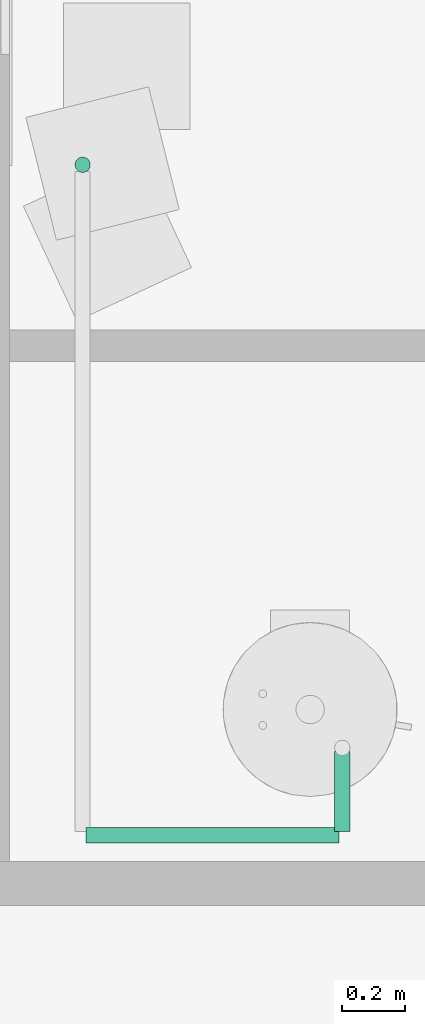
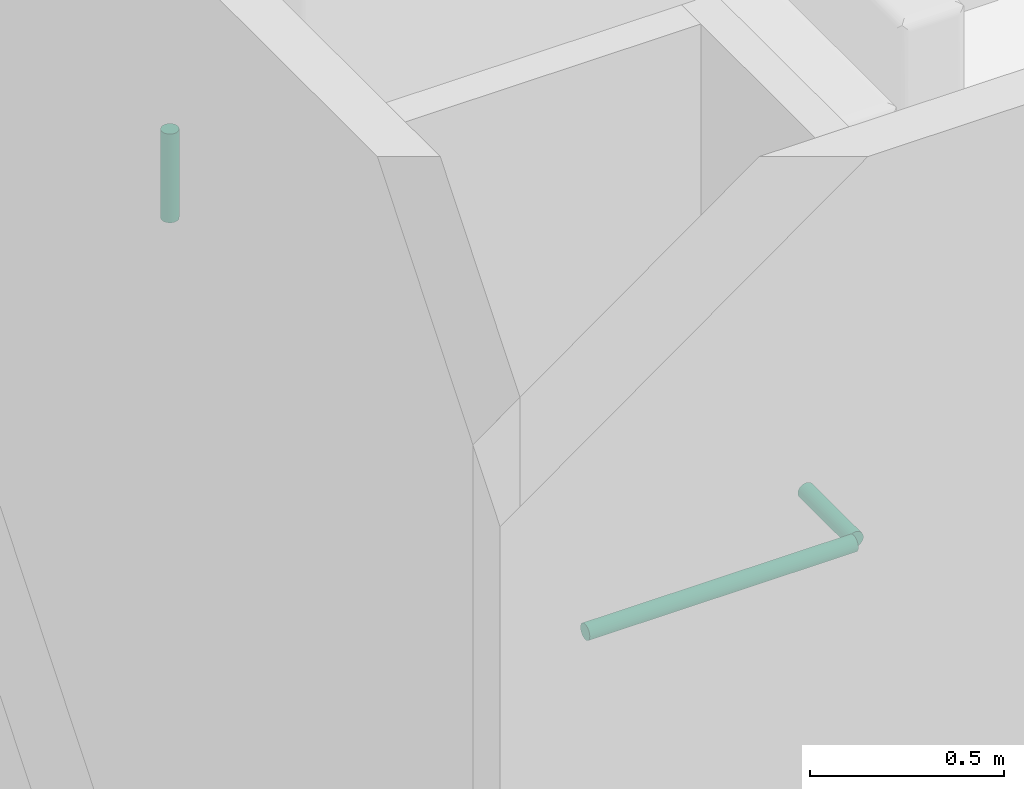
# One storey, part 50 of 72: 3 pipe segments.
"""IFC4 building model written with IfcOpenShell, lengths in centimetres."""

import ifcopenshell
import ifcopenshell.guid

model = None  # the IFC model being written
_history = None  # IfcOwnerHistory: only IFC2X3 demands one
_inside = {}  # id of a spatial element -> (the spatial element, [elements in it])
_under = {}  # id of a project, library or spatial element -> (it, [spatial elements below it])
_declared = {}  # id of a project -> (the project, [libraries it declares])
_typed = {}  # id of a type object -> (the type object, [elements of that type])
_made_of = {}  # id of a material, layer set ... -> (it, [elements and type objects made of it])


def new_model(schema):
    """Start an empty IFC model of exactly this schema.

    Asked for "IFC4X3", IfcOpenShell would pick the latest addendum, in which some entities
    have other attributes; the version numbers below select the first issue.
    IFC2X3 requires an IfcOwnerHistory on every rooted entity: one is made here for all.
    """
    global model, _history
    if schema == "IFC4X3":
        model = ifcopenshell.file(schema_version=(4, 3, 0, 0))
    else:
        model = ifcopenshell.file(schema=schema)
    _inside.clear()
    _under.clear()
    _declared.clear()
    _typed.clear()
    _made_of.clear()
    _history = None
    if model.schema == "IFC2X3":
        org = make("IfcOrganization", Name="unknown")
        user = make(
            "IfcPersonAndOrganization",
            ThePerson=make("IfcPerson", FamilyName="unknown"),
            TheOrganization=org,
        )
        app = make(
            "IfcApplication",
            ApplicationDeveloper=org,
            Version="unknown",
            ApplicationFullName="unknown",
            ApplicationIdentifier="unknown",
        )
        _history = make(
            "IfcOwnerHistory",
            OwningUser=user,
            OwningApplication=app,
            ChangeAction="ADDED",
            CreationDate=0,
        )
    return model


def make(cls, **values):
    """One entity of the class cls with the attributes given. An attribute that is None is left unset."""
    return model.create_entity(
        cls, **{name: value for name, value in values.items() if value is not None}
    )


def entity(cls, *values):
    """Any entity or typed value of the class cls, its attributes in the order of the schema. None: left unset."""
    e = model.create_entity(cls)
    for i, value in enumerate(values):
        if value is not None:
            e[i] = value
    return e


def rooted(cls, **values):
    """An entity with a GlobalId (a new one), such as an element, a storey or a relation."""
    return make(cls, GlobalId=ifcopenshell.guid.new(), OwnerHistory=_history, **values)


def si_unit(unit_type, name, prefix=None):
    """IfcSIUnit, for example si_unit("LENGTHUNIT", "METRE", prefix="MILLI")."""
    return make("IfcSIUnit", UnitType=unit_type, Prefix=prefix, Name=name)


def converted_unit(unit_type, name, factor, base, dimensions=None, offset=None):
    """IfcConversionBasedUnit, such as the inch: factor (a typed value) times the base unit."""
    return make(
        "IfcConversionBasedUnit"
        if offset is None
        else "IfcConversionBasedUnitWithOffset",
        ConversionOffset=offset,
        Dimensions=None
        if dimensions is None
        else entity("IfcDimensionalExponents", *dimensions),
        UnitType=unit_type,
        Name=name,
        ConversionFactor=make(
            "IfcMeasureWithUnit", ValueComponent=factor, UnitComponent=base
        ),
    )


def derived_unit(unit_type, elements):
    """IfcDerivedUnit: a product of units, each with its exponent."""
    return make(
        "IfcDerivedUnit",
        Elements=[
            make("IfcDerivedUnitElement", Unit=unit, Exponent=power)
            for unit, power in elements
        ],
        UnitType=unit_type,
    )


def assignment(units):
    """IfcUnitAssignment: the units of a project."""
    return None if units is None else make("IfcUnitAssignment", Units=units)


def point(xyz):
    """IfcCartesianPoint."""
    return None if xyz is None else make("IfcCartesianPoint", Coordinates=xyz)


def direction(xyz):
    """IfcDirection."""
    return None if xyz is None else make("IfcDirection", DirectionRatios=xyz)


def frame(location, z_axis=None, x_axis=None):
    """IfcAxis2Placement3D, a coordinate frame: its origin and axes. An axis left out is left unset."""
    return make(
        "IfcAxis2Placement3D",
        Location=point(location),
        Axis=direction(z_axis),
        RefDirection=direction(x_axis),
    )


def origin():
    """The frame at (0, 0, 0) with its axes left unset."""
    return frame((0.0, 0.0, 0.0))


def place(relative_to, where):
    """IfcLocalPlacement: puts the frame where relative to a parent placement (None: the world)."""
    return make(
        "IfcLocalPlacement", PlacementRelTo=relative_to, RelativePlacement=where
    )


def context(
    kind, dimensions, precision=None, world=None, true_north=None, identifier=None
):
    """IfcGeometricRepresentationContext, for example the 3D "Model" context."""
    return make(
        "IfcGeometricRepresentationContext",
        ContextIdentifier=identifier,
        ContextType=kind,
        CoordinateSpaceDimension=dimensions,
        Precision=precision,
        WorldCoordinateSystem=world,
        TrueNorth=true_north,
    )


def subcontext(parent, identifier, kind, view, scale=None):
    """IfcGeometricRepresentationSubContext, for example "Body" below "Model"."""
    return make(
        "IfcGeometricRepresentationSubContext",
        ContextIdentifier=identifier,
        ContextType=kind,
        ParentContext=parent,
        TargetScale=scale,
        TargetView=view,
    )


def project(units=None, contexts=None):
    """IfcProject with its units and contexts."""
    return rooted(
        "IfcProject",
        Name="project",
        RepresentationContexts=contexts,
        UnitsInContext=assignment(units),
    )


def spatial(cls, under=None, at=None, **own):
    """A site, building, storey or space (cls), placed at a placement, below another one or the project."""
    s = rooted(cls, ObjectPlacement=at, **own)
    if under is not None:
        _under.setdefault(under.id(), (under, []))[1].append(s)
    return s


def point_list(points):
    """IfcCartesianPointList2D or 3D."""
    cls = (
        "IfcCartesianPointList2D" if len(points[0]) == 2 else "IfcCartesianPointList3D"
    )
    return make(cls, CoordList=points)


def arc(*indices):
    """IfcArcIndex: an arc through three numbered points of an indexed curve."""
    return model.create_entity("IfcArcIndex", indices)


def indexed_curve(points, segments=None, self_intersect=None):
    """IfcIndexedPolyCurve: lines and arcs through numbered points (the first is 1)."""
    return make(
        "IfcIndexedPolyCurve",
        Points=point_list(points),
        Segments=segments,
        SelfIntersect=self_intersect,
    )


def outline(outer, holes=None, kind="AREA"):
    """IfcArbitraryClosedProfileDef: a profile drawn as a closed curve; with holes, ...WithVoids."""
    if holes is None:
        return make("IfcArbitraryClosedProfileDef", ProfileType=kind, OuterCurve=outer)
    return make(
        "IfcArbitraryProfileDefWithVoids",
        ProfileType=kind,
        OuterCurve=outer,
        InnerCurves=holes,
    )


def extrude(swept, where, along, depth):
    """IfcExtrudedAreaSolid: the profile swept, set in the frame where, extruded along a direction by depth."""
    return make(
        "IfcExtrudedAreaSolid",
        SweptArea=swept,
        Position=where,
        ExtrudedDirection=direction(along),
        Depth=depth,
    )


def shape(context_of_items, identifier, shape_type, items):
    """IfcShapeRepresentation: the items that make up one representation, for example the "Body"."""
    return make(
        "IfcShapeRepresentation",
        ContextOfItems=context_of_items,
        RepresentationIdentifier=identifier,
        RepresentationType=shape_type,
        Items=items,
    )


def made_of(thing, what):
    """Note that an element or type object is made of a material, layer set ...; save() writes the relation."""
    if what is not None:
        _made_of.setdefault(what.id(), (what, []))[1].append(thing)
    return thing


def type_object(cls, material=None, **own):
    """A type object (cls), such as IfcWallType, which elements share."""
    return made_of(rooted(cls, **own), material)


def element(
    cls,
    number,
    at=None,
    inside=None,
    cuts=None,
    type_object=None,
    material=None,
    context=None,
    identifier="Body",
    shape_type=None,
    held_by="IfcProductDefinitionShape",
    body=None,
    shapes=None,
    **own,
):
    """One element of the class cls, such as IfcWall. Its Tag is "e" and its number.

    at: its placement. inside: the storey or other place that contains it. cuts: it is an
    opening in that element (IfcRelVoidsElement). A single representation is given by context,
    identifier, shape_type and body (its items); several are given by shapes. held_by: the class
    of the entity that holds the representations. save() writes the other relations.
    """
    e = rooted(cls, Tag="e%d" % number, ObjectPlacement=at, **own)
    if body is not None:
        shapes = [shape(context, identifier, shape_type, body)]
    if shapes is not None:
        e.Representation = make(held_by, Representations=shapes)
    if inside is not None:
        _inside.setdefault(inside.id(), (inside, []))[1].append(e)
    if cuts is not None:
        rooted(
            "IfcRelVoidsElement", RelatingBuildingElement=cuts, RelatedOpeningElement=e
        )
    if type_object is not None:
        _typed.setdefault(type_object.id(), (type_object, []))[1].append(e)
    return made_of(e, material)


def aggregate(whole, parts):
    """IfcRelAggregates: a whole, such as a stair, and the parts it consists of."""
    return rooted("IfcRelAggregates", RelatingObject=whole, RelatedObjects=parts)


def save(model, path):
    """Write the relations noted so far, then the file.

    IfcRelAggregates (storeys below a building ...), IfcRelContainedInSpatialStructure (elements
    in a storey), IfcRelDefinesByType, IfcRelAssociatesMaterial and IfcRelDeclares: one each for
    every whole, place, type object, material and project.
    """
    for whole, parts in _under.values():
        aggregate(whole, parts)
    for where, things in _inside.values():
        rooted(
            "IfcRelContainedInSpatialStructure",
            RelatedElements=things,
            RelatingStructure=where,
        )
    for kind, things in _typed.values():
        rooted("IfcRelDefinesByType", RelatedObjects=things, RelatingType=kind)
    for what, things in _made_of.values():
        rooted("IfcRelAssociatesMaterial", RelatedObjects=things, RelatingMaterial=what)
    for by, libraries in _declared.values():
        rooted("IfcRelDeclares", RelatingContext=by, RelatedDefinitions=libraries)
    model.write(path)


model = new_model("IFC4")

# Units and contexts
model_context = context("Model", 3, precision=0.001, world=origin(), true_north=direction((6.123233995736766e-17, 1.0)))
body_context = subcontext(model_context, "Body", "Model", "MODEL_VIEW")
ifc_project = project(units=[si_unit("LENGTHUNIT", "METRE", prefix="CENTI"), si_unit("AREAUNIT", "SQUARE_METRE"), si_unit("VOLUMEUNIT", "CUBIC_METRE"), derived_unit("THERMALTRANSMITTANCEUNIT", [(si_unit("MASSUNIT", "GRAM", prefix="KILO"), 1), (si_unit("THERMODYNAMICTEMPERATUREUNIT", "KELVIN"), -1), (si_unit("TIMEUNIT", "SECOND"), -3)]), converted_unit("PLANEANGLEUNIT", "DEGREE", entity("IfcPlaneAngleMeasure", 0.017453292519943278), si_unit("PLANEANGLEUNIT", "RADIAN"), dimensions=[0, 0, 0, 0, 0, 0, 0]), derived_unit("MASSDENSITYUNIT", [(si_unit("MASSUNIT", "GRAM", prefix="KILO"), 1), (si_unit("LENGTHUNIT", "METRE"), -3)]), derived_unit("VAPORPERMEABILITYUNIT", [(si_unit("LENGTHUNIT", "METRE"), -1), (si_unit("TIMEUNIT", "SECOND"), 1)]), derived_unit("USERDEFINED", [(si_unit("MASSUNIT", "GRAM", prefix="KILO"), 1), (si_unit("TIMEUNIT", "SECOND"), -3), (si_unit("LENGTHUNIT", "METRE"), 3), (si_unit("ELECTRICCURRENTUNIT", "AMPERE"), -2)]), derived_unit("SPECIFICHEATCAPACITYUNIT", [(si_unit("THERMODYNAMICTEMPERATUREUNIT", "KELVIN"), -1), (si_unit("LENGTHUNIT", "METRE"), 2), (si_unit("TIMEUNIT", "SECOND"), -2)]), derived_unit("THERMALCONDUCTANCEUNIT", [(si_unit("MASSUNIT", "GRAM", prefix="KILO"), 1), (si_unit("THERMODYNAMICTEMPERATUREUNIT", "KELVIN"), -1), (si_unit("TIMEUNIT", "SECOND"), -3), (si_unit("LENGTHUNIT", "METRE"), 1)]), si_unit("PRESSUREUNIT", "PASCAL"), derived_unit("MODULUSOFELASTICITYUNIT", [(si_unit("MASSUNIT", "GRAM", prefix="KILO"), 1), (si_unit("LENGTHUNIT", "METRE"), -1), (si_unit("TIMEUNIT", "SECOND"), -2)]), derived_unit("THERMALEXPANSIONCOEFFICIENTUNIT", [(si_unit("THERMODYNAMICTEMPERATUREUNIT", "KELVIN"), -1)])], contexts=[model_context])

# Site, building, storey
site_placement = place(None, origin())
site = spatial("IfcSite", under=ifc_project, at=site_placement, Name="Default", CompositionType="ELEMENT")
building_placement = place(site_placement, origin())
building = spatial("IfcBuilding", under=site, at=building_placement, Name="IDS Escape Game Building", CompositionType="ELEMENT")
storey_placement = place(building_placement, frame((0.0, 0.0, 800.0)))
storey = spatial("IfcBuildingStorey", under=building, at=storey_placement, Name="02_Second Floor", CompositionType="ELEMENT", Elevation=800.0)

# Pipe segments
pipe_segment_type = type_object("IfcPipeSegmentType", Name="Pipe Types:Piping Aluminum", PredefinedType="NOTDEFINED")
pipe_segment_1_placement = place(storey_placement, origin())
element("IfcPipeSegment", 1, at=pipe_segment_1_placement, inside=storey, type_object=pipe_segment_type, Name="Pipe Types:Piping Aluminum", ObjectType="Pipe Types:Piping Aluminum", PredefinedType="NOTDEFINED", context=body_context, shape_type="SweptSolid", body=[
    extrude(outline(indexed_curve([(2.412999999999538, -2.165734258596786e-13), (1.7062486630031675, 1.7062486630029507), (4.331468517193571e-13, 2.4130000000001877), (-1.706248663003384, 1.7062486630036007), (-2.4130000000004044, -2.165734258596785e-13), (-1.7062486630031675, -1.706248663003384), (4.3314685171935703e-13, -2.4129999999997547), (1.7062486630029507, -1.7062486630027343)], segments=[arc(1, 2, 3), arc(3, 4, 5), arc(5, 6, 7), arc(7, 8, 1)], self_intersect=False)), frame((2983.146716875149, 1935.2648279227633, 242.0), z_axis=(1.0, 0.0, 0.0), x_axis=(0.0, 1.0, 0.0)), (0.0, 0.0, 1.0), 79.90328312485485),
])
pipe_segment_2_placement = place(storey_placement, origin())
element("IfcPipeSegment", 2, at=pipe_segment_2_placement, inside=storey, type_object=pipe_segment_type, Name="Pipe Types:Piping Aluminum", ObjectType="Pipe Types:Piping Aluminum", PredefinedType="NOTDEFINED", context=body_context, shape_type="SweptSolid", body=[
    extrude(outline(indexed_curve([(2.4129999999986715, 0.0), (1.7062486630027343, 1.7062486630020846), (1.7325874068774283e-12, 2.412999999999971), (-1.7062486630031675, 1.7062486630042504), (-2.413000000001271, 0.0), (-1.7062486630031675, -1.7062486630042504), (1.7325874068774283e-12, -2.412999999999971), (1.7062486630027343, -1.7062486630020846)], segments=[arc(1, 2, 3), arc(3, 4, 5), arc(5, 6, 7), arc(7, 8, 1)], self_intersect=False)), frame((3064.1500000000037, 1936.3648279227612, 242.0), z_axis=(0.0, 1.0, 0.0), x_axis=(-1.0, 0.0, 0.0)), (0.0, 0.0, 1.0), 25.435172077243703),
])
pipe_segment_3_placement = place(storey_placement, origin())
element("IfcPipeSegment", 3, at=pipe_segment_3_placement, inside=storey, type_object=pipe_segment_type, Name="Pipe Types:Piping Aluminum", ObjectType="Pipe Types:Piping Aluminum", PredefinedType="NOTDEFINED", context=body_context, shape_type="SweptSolid", body=[
    extrude(outline(indexed_curve([(2.412999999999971, 0.0), (1.7062486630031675, 1.7062486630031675), (0.0, 2.412999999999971), (-1.7062486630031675, 1.7062486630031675), (-2.412999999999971, 0.0), (-1.7062486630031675, -1.7062486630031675), (0.0, -2.412999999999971), (1.7062486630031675, -1.7062486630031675)], segments=[arc(1, 2, 3), arc(3, 4, 5), arc(5, 6, 7), arc(7, 8, 1)], self_intersect=False)), frame((2982.0467168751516, 2147.264827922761, 244.09999999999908), z_axis=(0.0, 0.0, 1.0), x_axis=(-1.0, 0.0, 0.0)), (0.0, 0.0, 1.0), 27.90000000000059),
])

save(model, "model.ifc")
